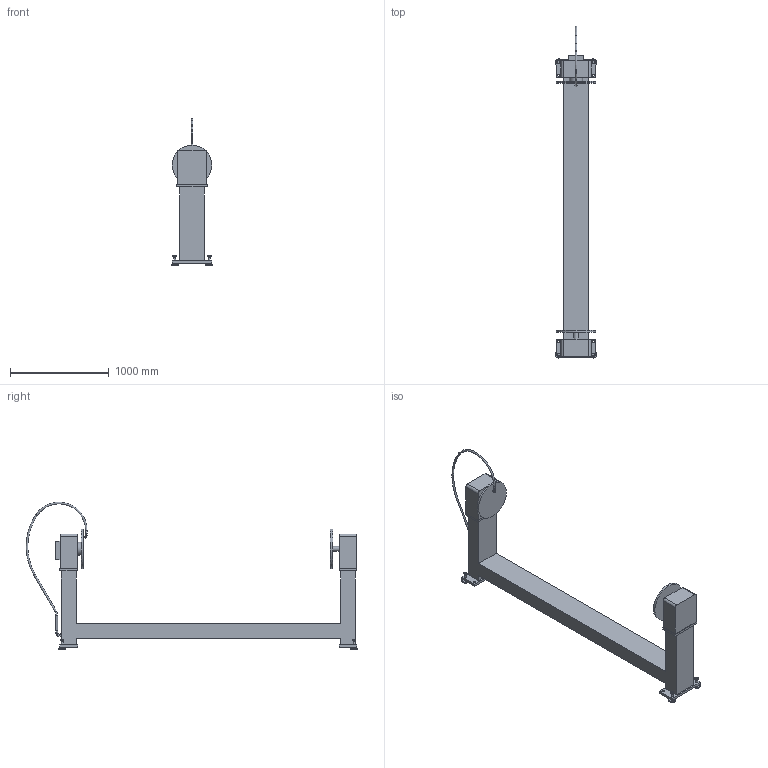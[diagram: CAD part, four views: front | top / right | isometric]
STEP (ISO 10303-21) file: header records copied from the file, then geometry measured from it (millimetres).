
FILE_DESCRIPTION((''),'2;1');
FILE_NAME('H:\Machine construction\Products\Layout symbols\Positioners\HSD\013156-102 HSD-250 SNM (STEP).stp','2008-01-31T13:14:26',('Kristian'),(''),'Autodesk Inventor 2008','Autodesk Inventor 2008','');
FILE_SCHEMA(('AUTOMOTIVE_DESIGN { 1 0 10303 214 1 1 1 1 }'));
Length unit declared in the file: millimetre
Products named in the file (23): 013156- HSD-250 SNM (iAssy) (No details); 114925-102 Stativ (bearbetning) (iAssy) (No details); 114925-102 Stativ (low-res); 114929-100 Drivdocka 250 kg (No details); 114928-100 Drivdocka 250kg (low-res); 114933-100 Stöddocka (No details); 114933-100 Stöddocka (low-res); 314033 Kopplingsplint; 314034 Platta; 413951 Kopparledare; 6005016 MF6S 6x16; 6026009 BRB M10; 6002068 MC6S 10x25; 406025 Fotbricka; 6001043 M6S 20x80; 6026006 BRB M6; 6002030 MC6S 6x20; 013155 Återledare -01; 013155 Svetskabel -01; 8220018 Kabelsko 70-10; 6002070 MC6S 10x35; 6022010 LM6M Låsmutter M10; 411503 Maskinskylt
Assembly tree (36 placements, depth 3):
  013156- HSD-250 SNM (iAssy) (No details)
    114925-102 Stativ (bearbetning) (iAssy) (No details)
      114925-102 Stativ (low-res)
    114929-100 Drivdocka 250 kg (No details)
      114928-100 Drivdocka 250kg (low-res)
    114933-100 Stöddocka (No details)
      114933-100 Stöddocka (low-res)
    314033 Kopplingsplint
      314034 Platta
      413951 Kopparledare
      6005016 MF6S 6x16  x2
      6026009 BRB M10  x3
      6002068 MC6S 10x25  x3
    406025 Fotbricka  x4
    6001043 M6S 20x80  x4
    6026006 BRB M6  x2
    6002030 MC6S 6x20  x2
    013155 Återledare -01
      013155 Svetskabel -01
      8220018 Kabelsko 70-10  x2
    6002070 MC6S 10x35
    6022010 LM6M Låsmutter M10
    411503 Maskinskylt
Bounding box: 420 x 3354.92 x 1491.94 mm (x, y, z)
Volume: 207220678.2 mm3; surface area: 5447754.7 mm2
Topology: 33 solids, 33 shells, 463 faces, 1023 edges, 661 vertices
Faces by surface type: plane 243, cylinder 127, cone 49, bspline 35, torus 5, sphere 4
Full cylindrical faces by diameter (mm): 5 x2, 6 x6, 6.4 x2, 7 x4, 8.376 x3, 10 x10, 10.5 x3, 11.34 x2, 12 x2, 15.6 x1, 16 x4, 17 x3, 20 x11, 28.19 x4, 50 x1, 70 x4, 133 x1, 400 x2
Entity records: 8539 total; most frequent: CARTESIAN_POINT 2000, DIRECTION 1250, ORIENTED_EDGE 1026, EDGE_CURVE 513, AXIS2_PLACEMENT_3D 490, EDGE_LOOP 417, VERTEX_POINT 378, FACE_OUTER_BOUND 274
